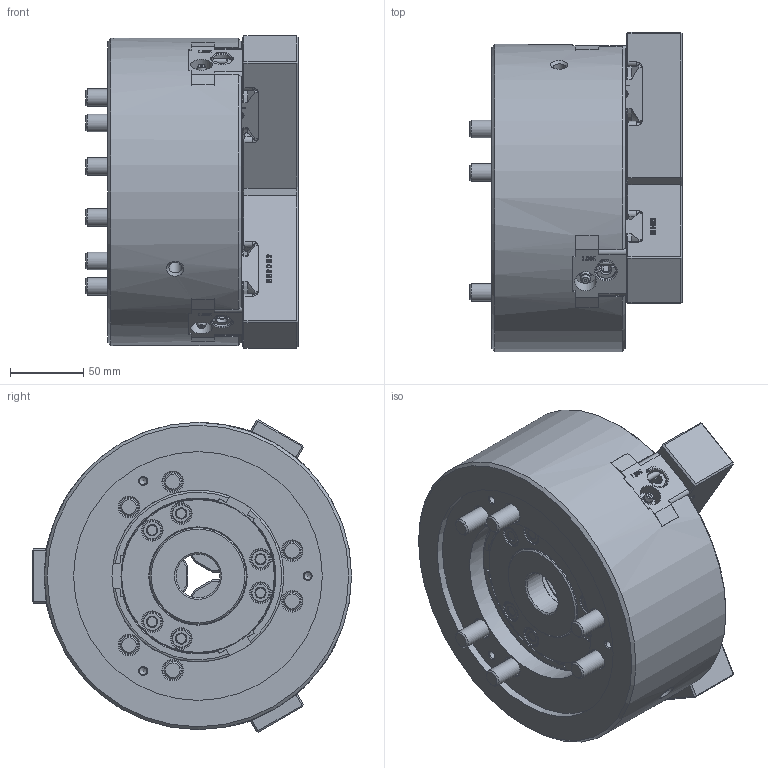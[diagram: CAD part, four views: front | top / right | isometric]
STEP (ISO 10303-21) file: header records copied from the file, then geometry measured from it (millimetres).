
FILE_DESCRIPTION (( 'STEP AP214' ), '1' );
FILE_NAME ('DT1_QB308_OUTSIDE_VIEW_HUL.STEP', '2024-05-16T00:29:40', ( '' ), ( '' ), 'SwSTEP 2.0', 'SolidWorks 2022', '' );
FILE_SCHEMA (( 'AUTOMOTIVE_DESIGN' ));
Length unit declared in the file: millimetre
Products named in the file (7): DT1_QB308_M12x90^DT1_QB308_ﾃﾞﾌｫﾙﾄ; Part1^DT1_QB308_ﾃﾞﾌｫﾙﾄ; DT1_QB308_OUTSIDE_VIEW_HUL; DT1_QB308_SOFTJAW^DT1_QB308_ﾃﾞﾌｫﾙﾄ; DT1_QB308_COVER^DT1_QB308_ﾃﾞﾌｫﾙﾄ; DT1_QB308_DRAWNUT^DT1_QB308_ﾃﾞﾌｫﾙﾄ; DT1_QB308_M5x10^DT1_QB308_ﾃﾞﾌｫﾙﾄ
Assembly tree (15 placements, depth 2):
  DT1_QB308_OUTSIDE_VIEW_HUL
    DT1_QB308_SOFTJAW^DT1_QB308_ﾃﾞﾌｫﾙﾄ  x3
    DT1_QB308_DRAWNUT^DT1_QB308_ﾃﾞﾌｫﾙﾄ
    DT1_QB308_COVER^DT1_QB308_ﾃﾞﾌｫﾙﾄ
    DT1_QB308_M5x10^DT1_QB308_ﾃﾞﾌｫﾙﾄ  x3
    DT1_QB308_M12x90^DT1_QB308_ﾃﾞﾌｫﾙﾄ  x6
    Part1^DT1_QB308_ﾃﾞﾌｫﾙﾄ
Bounding box: 145 x 218.15 x 213.48 mm (x, y, z)
Volume: 3167992.5 mm3; surface area: 312834.4 mm2
Topology: 15 solids, 15 shells, 2437 faces, 6313 edges, 4092 vertices
Faces by surface type: plane 1245, bspline 646, cylinder 255, cone 252, torus 36, sphere 3
Full cylindrical faces by diameter (mm): 2 x3, 4 x3, 4.2 x12, 5 x6, 5.5 x3, 6 x6, 8 x6, 8.5 x2, 9.5 x3, 10 x3, 12 x6, 13 x6, 13.5 x6, 13.8 x3, 14 x9, 14.2 x3, 15 x3, 18 x6, 18.27 x6, 20 x6, 30 x1, 52 x1, 56 x2, 61 x1, 64.8 x2, 66 x2, 72 x2, 105.2 x1, 117.5 x1, 170 x1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
Entity records: 72894 total; most frequent: CARTESIAN_POINT 31746, ORIENTED_EDGE 9052, DIRECTION 6856, EDGE_CURVE 4526, VERTEX_POINT 3043, VECTOR 2426, LINE 2426, EDGE_LOOP 2233
